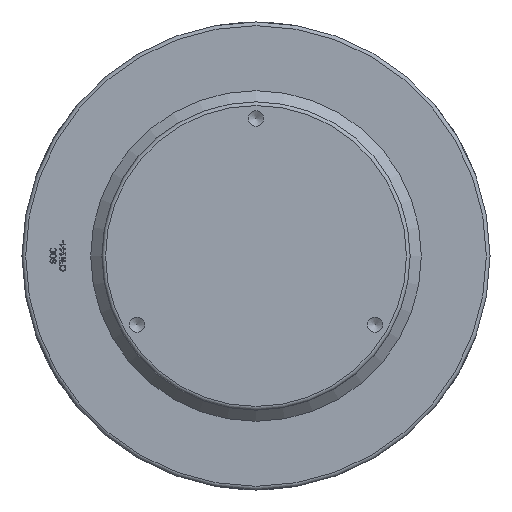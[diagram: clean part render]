
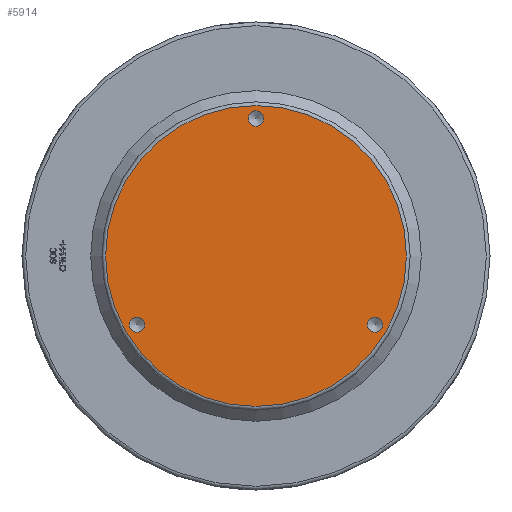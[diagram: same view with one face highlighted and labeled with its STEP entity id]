
A CAD part, front view. The second image highlights one B-rep face of the part: STEP entity #5914.
In plain terms, the highlighted planar face has unit normal (0, -1, 0) as drawn and (0, 1, 0) by its records, which use the part's own axes.
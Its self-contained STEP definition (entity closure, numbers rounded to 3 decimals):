
#1655=PLANE('',#6246);
#1763=FACE_BOUND('',#2327,.T.);
#1764=FACE_BOUND('',#2328,.T.);
#1765=FACE_BOUND('',#2329,.T.);
#1975=FACE_OUTER_BOUND('',#2326,.T.);
#2326=EDGE_LOOP('',(#4853));
#2327=EDGE_LOOP('',(#4854));
#2328=EDGE_LOOP('',(#4855));
#2329=EDGE_LOOP('',(#4856));
#2543=CIRCLE('',#6145,10.376);
#2545=CIRCLE('',#6149,10.376);
#2547=CIRCLE('',#6153,10.376);
#2549=CIRCLE('',#6244,202.5);
#2569=VERTEX_POINT('',#7436);
#2571=VERTEX_POINT('',#7442);
#2573=VERTEX_POINT('',#7448);
#2851=VERTEX_POINT('',#9113);
#3157=EDGE_CURVE('',#2569,#2569,#2543,.T.);
#3159=EDGE_CURVE('',#2571,#2571,#2545,.T.);
#3161=EDGE_CURVE('',#2573,#2573,#2547,.T.);
#3577=EDGE_CURVE('',#2851,#2851,#2549,.T.);
#4853=ORIENTED_EDGE('',*,*,#3577,.F.);
#4854=ORIENTED_EDGE('',*,*,#3157,.T.);
#4855=ORIENTED_EDGE('',*,*,#3159,.T.);
#4856=ORIENTED_EDGE('',*,*,#3161,.T.);
#5914=ADVANCED_FACE('',(#1975,#1763,#1764,#1765),#1655,.T.);
#6145=AXIS2_PLACEMENT_3D('',#7437,#6389,#6390);
#6149=AXIS2_PLACEMENT_3D('',#7443,#6397,#6398);
#6153=AXIS2_PLACEMENT_3D('',#7449,#6405,#6406);
#6244=AXIS2_PLACEMENT_3D('',#9114,#6875,#6876);
#6246=AXIS2_PLACEMENT_3D('',#9117,#6879,#6880);
#6389=DIRECTION('center_axis',(0.,-1.,0.));
#6390=DIRECTION('ref_axis',(-0.5,0.,-0.866));
#6397=DIRECTION('center_axis',(0.,-1.,0.));
#6398=DIRECTION('ref_axis',(-0.5,0.,0.866));
#6405=DIRECTION('center_axis',(0.,-1.,0.));
#6406=DIRECTION('ref_axis',(1.,0.,0.));
#6875=DIRECTION('center_axis',(0.,-1.,0.));
#6876=DIRECTION('ref_axis',(-1.,0.,0.));
#6879=DIRECTION('center_axis',(0.,1.,0.));
#6880=DIRECTION('ref_axis',(0.,0.,1.));
#7436=CARTESIAN_POINT('',(155.027,378.,-101.486));
#7437=CARTESIAN_POINT('Origin',(160.215,378.,-92.5));
#7442=CARTESIAN_POINT('',(-165.403,378.,-83.514));
#7443=CARTESIAN_POINT('Origin',(-160.215,378.,-92.5));
#7448=CARTESIAN_POINT('',(10.376,378.,185.));
#7449=CARTESIAN_POINT('Origin',(0.,378.,185.));
#9113=CARTESIAN_POINT('',(202.5,378.,0.));
#9114=CARTESIAN_POINT('Origin',(0.,378.,0.));
#9117=CARTESIAN_POINT('Origin',(207.5,378.,0.));
